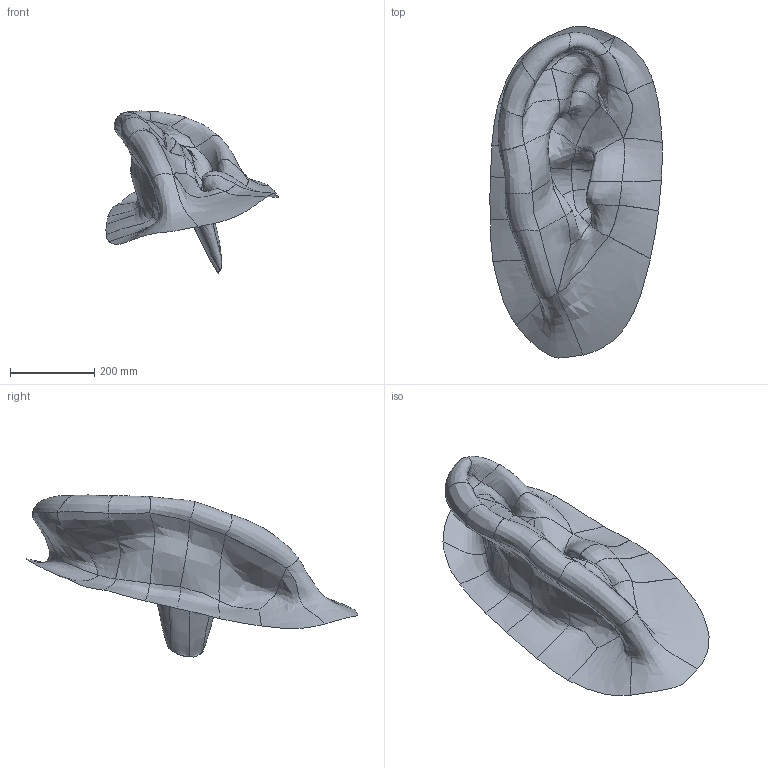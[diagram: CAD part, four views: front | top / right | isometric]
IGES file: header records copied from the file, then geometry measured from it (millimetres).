
Global section: file name: D:\RhinoResurf(v1.01)\multi_surface\ear\weiguo.igs; native system: Rhinoceros ( Oct 17 2007 ); preprocessor: Trout Lake IGES 012 Oct 17 2007; date: 080318.071509; units: centimetre
Bounding box: 410.14 x 789.99 x 385.7 mm (x, y, z)
Surface area: 636007.1 mm2 (no closed solid volume)
Topology: 0 solids, 0 shells, 57 faces, 228 edges, 228 vertices
Faces by surface type: bspline 57
